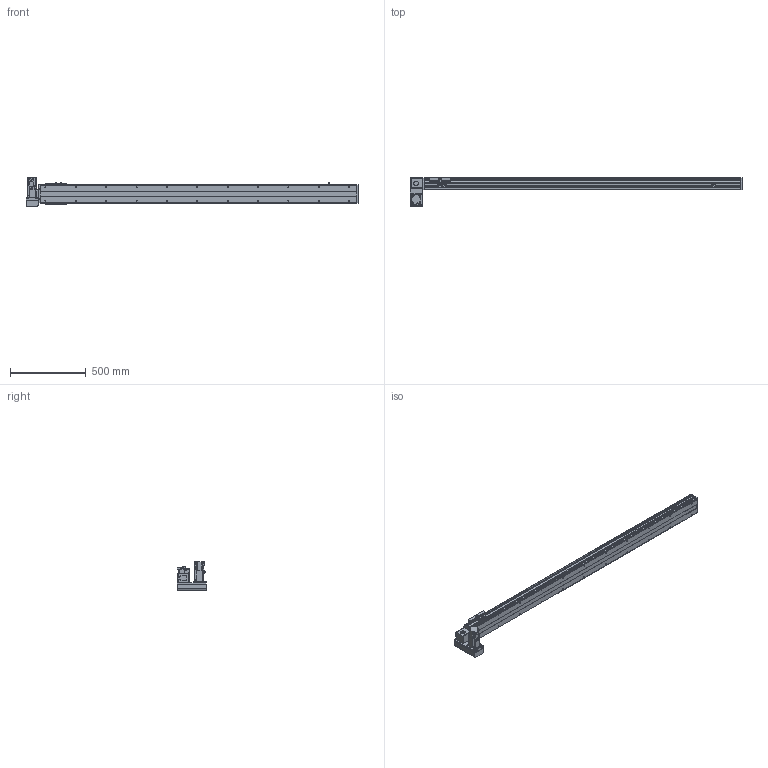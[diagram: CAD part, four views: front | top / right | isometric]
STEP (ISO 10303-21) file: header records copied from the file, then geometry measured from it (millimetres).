
FILE_DESCRIPTION( ( 'STEP AP214' ), '1' );
FILE_NAME( 'x:/temp/worker_6/temp/exporttempdir_3468_3_78GW5/format_0/PBS120-P40-S1800-LD-T40-C1-N(0).stp', '2022-06-08T08:12:53', ( 'License CC BY-ND 4.0' ), ( 'CADENAS' ), ' ', 'PARTsolutions', ' ' );
FILE_SCHEMA( ( 'AUTOMOTIVE_DESIGN { 1 0 10303 214 1 1 1 1 }' ) );
Length unit declared in the file: millimetre
Products named in the file (7): PBS120-P40-S1800-LD-T40-C1-N(0); _PBS120-S1800()_body; _PBS120T-LD_motors; _T40-p1; _PBS120_sliser; _PBS120_plant; _PBS120_sensor
Assembly tree (8 placements, depth 2):
  PBS120-P40-S1800-LD-T40-C1-N(0)
    _PBS120-S1800()_body
    _PBS120T-LD_motors
    _T40-p1
    _PBS120_sliser
    _PBS120_plant
    _PBS120_sensor  x3
Bounding box: 2186 x 196 x 189.7 mm (x, y, z)
Volume: 8565363 mm3; surface area: 1738186 mm2
Topology: 8 solids, 8 shells, 846 faces, 2186 edges, 1405 vertices
Faces by surface type: plane 555, cylinder 235, cone 54, torus 2
Full cylindrical faces by diameter (mm): 2.459 x6, 3.242 x4, 4 x2, 4.134 x4, 4.5 x10, 4.917 x26, 5.5 x11, 6 x2, 6.6 x1, 7 x2, 8.5 x4, 9 x4, 12 x1, 14 x1, 30 x2, 40 x1, 50 x2
Entity records: 27828 total; most frequent: DIRECTION 3812, CARTESIAN_POINT 3731, ORIENTED_EDGE 3538, EDGE_CURVE 1769, AXIS2_PLACEMENT_3D 1292, LINE 1228, VECTOR 1228, VERTEX_POINT 1211
